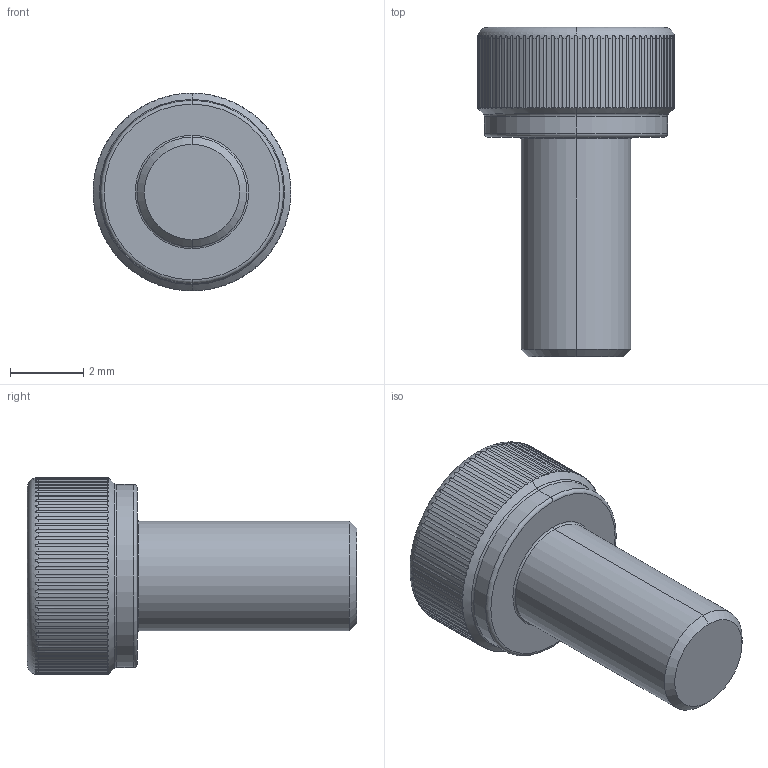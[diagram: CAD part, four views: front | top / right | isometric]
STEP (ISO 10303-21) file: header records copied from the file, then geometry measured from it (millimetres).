
FILE_DESCRIPTION (( 'STEP AP203' ), '1' );
FILE_NAME ('LGDT-304-M3x6.STEP', '2026-08-08T07:26:36', ( '' ), ( '' ), 'SwSTEP 2.0', 'SolidWorks 2020', '' );
FILE_SCHEMA (( 'CONFIG_CONTROL_DESIGN' ));
Length unit declared in the file: millimetre
Products named in the file (1): LGDT-304-M3x6
Bounding box: 5.4 x 9 x 5.4 mm (x, y, z)
Volume: 99.5 mm3; surface area: 160 mm2
Topology: 1 solids, 1 shells, 204 faces, 576 edges, 376 vertices
Faces by surface type: cylinder 175, cone 11, plane 10, torus 8
Entity records: 10019 total; most frequent: CARTESIAN_POINT 4860, ORIENTED_EDGE 1152, DIRECTION 988, EDGE_CURVE 576, AXIS2_PLACEMENT_3D 398, VERTEX_POINT 376, EDGE_LOOP 206, ADVANCED_FACE 204
